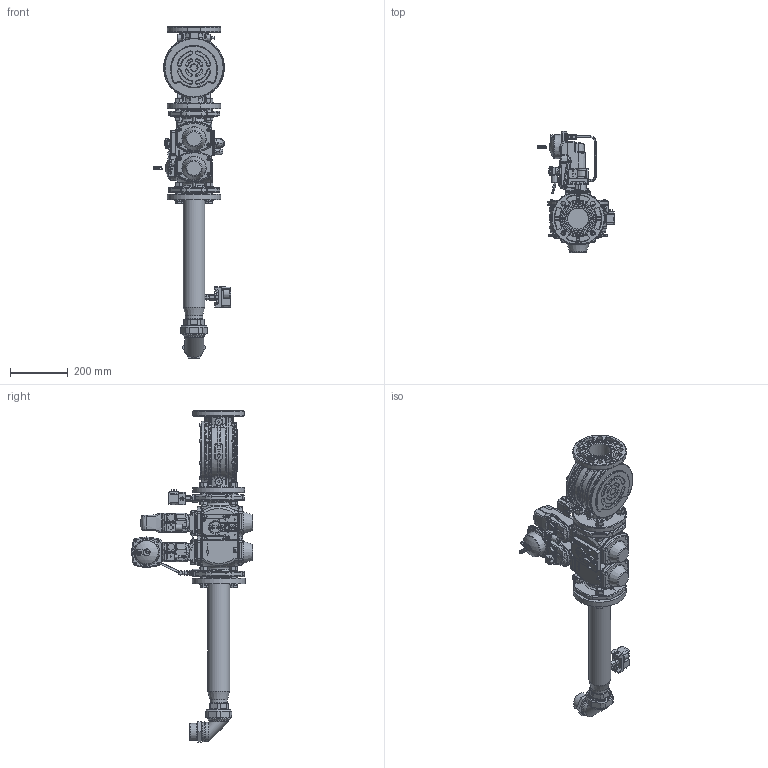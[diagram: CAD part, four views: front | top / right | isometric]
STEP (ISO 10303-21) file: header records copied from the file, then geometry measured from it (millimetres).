
FILE_DESCRIPTION (( 'STEP AP214' ), '1' );
FILE_NAME ('19990718.STEP', '2025-02-14T06:51:27', ( '' ), ( '' ), 'SwSTEP 2.0', 'SolidWorks 2021', '' );
FILE_SCHEMA (( 'AUTOMOTIVE_DESIGN' ));
Length unit declared in the file: millimetre
Products named in the file (1): 19990718
Bounding box: 270.26 x 420.8 x 1153 mm (x, y, z)
Surface area: 1634681.1 mm2 (no closed solid volume)
Topology: 0 solids, 133 shells, 8766 faces, 21380 edges, 13098 vertices
Faces by surface type: bspline 2669, plane 2433, cylinder 2424, torus 550, cone 539, sphere 151
Full cylindrical faces by diameter (mm): 1.5 x2, 2 x2, 3 x1, 3.1 x1, 3.4 x1, 3.838 x3, 4 x5, 4.3 x12, 4.8 x2, 5 x26, 5.188 x2, 5.3 x6, 5.5 x12, 5.795 x22, 5.9 x1, 6 x8, 6.2 x2, 6.4 x4, 6.5 x11, 7 x3, 8 x20, 8.5 x5, 9 x13, 9.5 x1, 9.728 x1, 10 x34, 11.3 x1, 11.5 x1, 11.55 x1, 11.8 x2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
Entity records: 502746 total; most frequent: CARTESIAN_POINT 230789, ORIENTED_EDGE 39463, DIRECTION 29526, EDGE_CURVE 19749, VERTEX_POINT 12630, AXIS2_PLACEMENT_3D 11607, EDGE_LOOP 10399, FACE_OUTER_BOUND 9494
